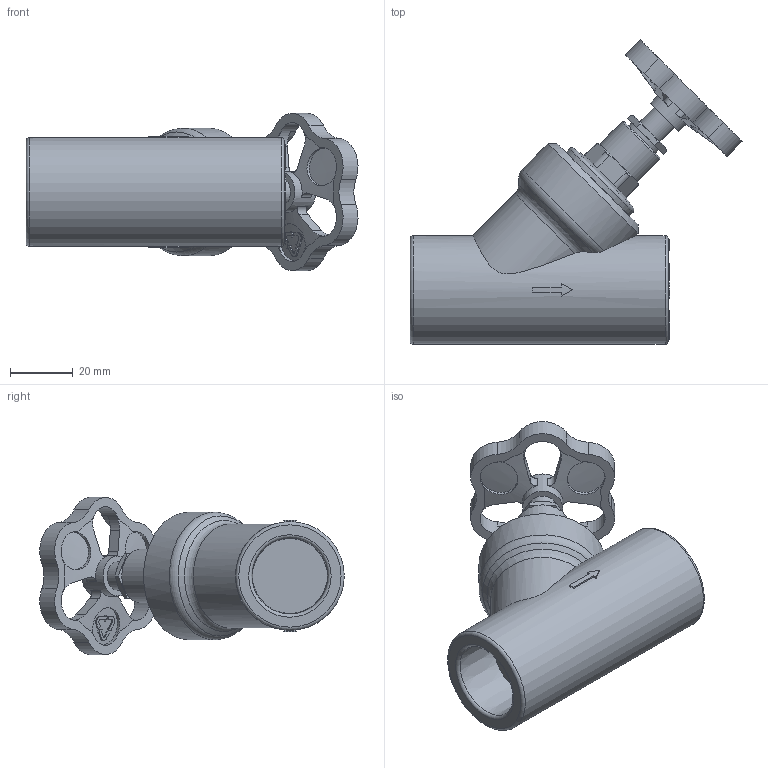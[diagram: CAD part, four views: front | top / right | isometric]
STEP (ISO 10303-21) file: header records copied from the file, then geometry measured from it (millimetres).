
FILE_DESCRIPTION(('STEP AP203'), '1');
FILE_NAME('覆.491219.002.000 捘 - VTp.714.0.025', '', ('UNSPECIFIED'), ('UNSPECIFIED'), 'C3D Converter', 'C3D Toolkit', '');
FILE_SCHEMA(('CONFIG_CONTROL_DESIGN'));
Length unit declared in the file: millimetre
Products named in the file (3): ВР.491219.002.000 СБ; ВР.753181.020
Assembly tree (2 placements, depth 2):
  ВР.491219.002.000 СБ
    ВР.753181.020
    (unnamed)
Bounding box: 105.44 x 96.69 x 50 mm (x, y, z)
Volume: 103845.7 mm3; surface area: 22906.6 mm2
Topology: 1 solids, 1 shells, 681 faces, 1860 edges, 1234 vertices
Faces by surface type: plane 313, extrusion 233, cylinder 80, cone 46, torus 8, bspline 1
Full cylindrical faces by diameter (mm): 4 x1, 5 x1, 9 x1, 12 x6, 12.1 x1, 12.8 x1, 17 x1, 28.5 x1, 34.5 x1, 40.5 x1
Entity records: 30662 total; most frequent: CARTESIAN_POINT 14781, ORIENTED_EDGE 3652, DIRECTION 2323, EDGE_CURVE 1826, VERTEX_POINT 1228, VECTOR 1137, B_SPLINE_CURVE_WITH_KNOTS 1004, LINE 904
